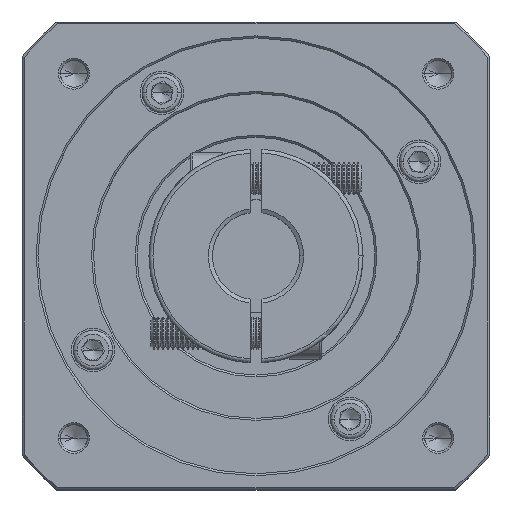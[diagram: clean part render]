
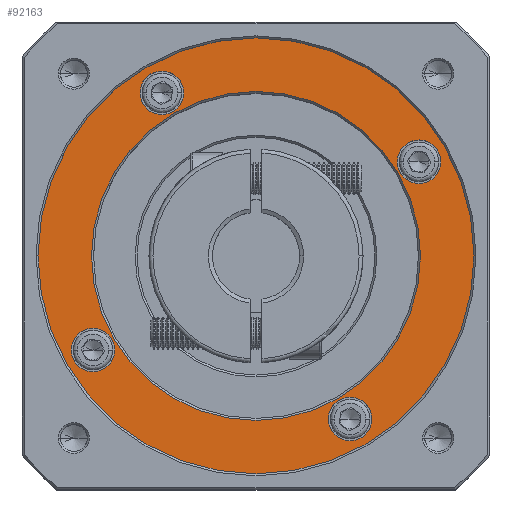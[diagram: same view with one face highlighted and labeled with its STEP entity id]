
A CAD part, top view. The second image highlights one B-rep face of the part: STEP entity #92163.
In plain terms, the highlighted planar face has unit normal (0, 0, 1).
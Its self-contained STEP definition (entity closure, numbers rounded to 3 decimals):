
#1731 = EDGE_CURVE ( 'NONE', #33004, #8407, #117924, .T. ) ;
#4808 = FACE_BOUND ( 'NONE', #76981, .T. ) ;
#5871 = CARTESIAN_POINT ( 'NONE',  ( 43.257, 123.385, 9.997 ) ) ;
#6039 = CIRCLE ( 'NONE', #54796, 5.5 ) ;
#6546 = VERTEX_POINT ( 'NONE', #58849 ) ;
#7833 = FACE_BOUND ( 'NONE', #93667, .T. ) ;
#8407 = VERTEX_POINT ( 'NONE', #52983 ) ;
#11062 = VERTEX_POINT ( 'NONE', #110245 ) ;
#11932 = DIRECTION ( 'NONE',  ( 0., 0., 1. ) ) ;
#12748 = CIRCLE ( 'NONE', #98497, 41.5 ) ;
#13034 = ORIENTED_EDGE ( 'NONE', *, *, #102230, .T. ) ;
#14832 = VERTEX_POINT ( 'NONE', #20530 ) ;
#14933 = CIRCLE ( 'NONE', #119286, 5.5 ) ;
#15342 = DIRECTION ( 'NONE',  ( 1., 0., 0. ) ) ;
#16915 = ORIENTED_EDGE ( 'NONE', *, *, #79094, .T. ) ;
#17341 = DIRECTION ( 'NONE',  ( 0., 0., -1. ) ) ;
#18833 = EDGE_CURVE ( 'NONE', #11062, #63821, #47626, .T. ) ;
#20530 = CARTESIAN_POINT ( 'NONE',  ( 43.257, 164.885, 9.997 ) ) ;
#20948 = PLANE ( 'NONE',  #74303 ) ;
#22181 = AXIS2_PLACEMENT_3D ( 'NONE', #32677, #98421, #42094 ) ;
#25407 = DIRECTION ( 'NONE',  ( 0., 0., 1. ) ) ;
#25604 = VERTEX_POINT ( 'NONE', #77345 ) ;
#28787 = CARTESIAN_POINT ( 'NONE',  ( 98.257, 123.385, 9.997 ) ) ;
#28865 = CIRCLE ( 'NONE', #103285, 5.5 ) ;
#29801 = FACE_BOUND ( 'NONE', #57832, .T. ) ;
#29838 = CARTESIAN_POINT ( 'NONE',  ( 2.121, 99.635, 9.997 ) ) ;
#30094 = CIRCLE ( 'NONE', #108843, 5.5 ) ;
#32677 = CARTESIAN_POINT ( 'NONE',  ( 19.507, 164.521, 9.997 ) ) ;
#33004 = VERTEX_POINT ( 'NONE', #28787 ) ;
#33617 = CARTESIAN_POINT ( 'NONE',  ( 84.393, 147.135, 9.997 ) ) ;
#35812 = CIRCLE ( 'NONE', #98552, 5.5 ) ;
#36344 = DIRECTION ( 'NONE',  ( 0., 0., -1. ) ) ;
#38327 = CARTESIAN_POINT ( 'NONE',  ( 78.893, 147.135, 9.997 ) ) ;
#39216 = EDGE_CURVE ( 'NONE', #63821, #11062, #83035, .T. ) ;
#39241 = DIRECTION ( 'NONE',  ( 1., 0., 0. ) ) ;
#40850 = ORIENTED_EDGE ( 'NONE', *, *, #1731, .T. ) ;
#41984 = ORIENTED_EDGE ( 'NONE', *, *, #61692, .T. ) ;
#42094 = DIRECTION ( 'NONE',  ( 1., 0., 0. ) ) ;
#43058 = DIRECTION ( 'NONE',  ( 1., 0., 0. ) ) ;
#46562 = AXIS2_PLACEMENT_3D ( 'NONE', #81575, #25407, #91037 ) ;
#46953 = CARTESIAN_POINT ( 'NONE',  ( 43.257, 123.385, 9.997 ) ) ;
#47626 = CIRCLE ( 'NONE', #22181, 5.5 ) ;
#48931 = EDGE_CURVE ( 'NONE', #118380, #105205, #6039, .T. ) ;
#49627 = DIRECTION ( 'NONE',  ( 0., 0., -1. ) ) ;
#52728 = AXIS2_PLACEMENT_3D ( 'NONE', #5871, #71435, #15342 ) ;
#52983 = CARTESIAN_POINT ( 'NONE',  ( -11.743, 123.385, 9.997 ) ) ;
#53382 = DIRECTION ( 'NONE',  ( 0., 0., -1. ) ) ;
#54729 = FACE_BOUND ( 'NONE', #60695, .T. ) ;
#54796 = AXIS2_PLACEMENT_3D ( 'NONE', #92592, #36344, #102107 ) ;
#55083 = CARTESIAN_POINT ( 'NONE',  ( 84.393, 147.135, 9.997 ) ) ;
#56081 = DIRECTION ( 'NONE',  ( 0., 0., -1. ) ) ;
#56365 = CIRCLE ( 'NONE', #112082, 41.5 ) ;
#56374 = DIRECTION ( 'NONE',  ( 0., -1., 0. ) ) ;
#57680 = FACE_OUTER_BOUND ( 'NONE', #86250, .T. ) ;
#57832 = EDGE_LOOP ( 'NONE', ( #110470, #93186 ) ) ;
#58849 = CARTESIAN_POINT ( 'NONE',  ( 7.621, 99.635, 9.997 ) ) ;
#60695 = EDGE_LOOP ( 'NONE', ( #103539, #113129 ) ) ;
#61692 = EDGE_CURVE ( 'NONE', #8407, #33004, #94631, .T. ) ;
#63821 = VERTEX_POINT ( 'NONE', #70850 ) ;
#64032 = EDGE_CURVE ( 'NONE', #6546, #25604, #104183, .T. ) ;
#64475 = DIRECTION ( 'NONE',  ( 1., 0., 0. ) ) ;
#66188 = CARTESIAN_POINT ( 'NONE',  ( 89.893, 147.135, 9.997 ) ) ;
#68023 = CARTESIAN_POINT ( 'NONE',  ( 43.257, 123.385, 9.997 ) ) ;
#68125 = EDGE_LOOP ( 'NONE', ( #13034, #75550 ) ) ;
#68399 = AXIS2_PLACEMENT_3D ( 'NONE', #109734, #53382, #119228 ) ;
#70850 = CARTESIAN_POINT ( 'NONE',  ( 25.007, 164.521, 9.997 ) ) ;
#71435 = DIRECTION ( 'NONE',  ( 0., 0., 1. ) ) ;
#73453 = CARTESIAN_POINT ( 'NONE',  ( 67.007, 82.249, 9.997 ) ) ;
#74139 = CARTESIAN_POINT ( 'NONE',  ( 61.507, 82.249, 9.997 ) ) ;
#74303 = AXIS2_PLACEMENT_3D ( 'NONE', #68023, #11932, #77491 ) ;
#74382 = VERTEX_POINT ( 'NONE', #38327 ) ;
#75550 = ORIENTED_EDGE ( 'NONE', *, *, #107972, .T. ) ;
#76981 = EDGE_LOOP ( 'NONE', ( #102096, #89385 ) ) ;
#77345 = CARTESIAN_POINT ( 'NONE',  ( -3.379, 99.635, 9.997 ) ) ;
#77491 = DIRECTION ( 'NONE',  ( 1., 0., 0. ) ) ;
#78320 = VERTEX_POINT ( 'NONE', #66188 ) ;
#79094 = EDGE_CURVE ( 'NONE', #74382, #78320, #28865, .T. ) ;
#79653 = FACE_BOUND ( 'NONE', #68125, .T. ) ;
#79680 = CARTESIAN_POINT ( 'NONE',  ( 72.507, 82.249, 9.997 ) ) ;
#81377 = AXIS2_PLACEMENT_3D ( 'NONE', #112464, #56081, #121966 ) ;
#81575 = CARTESIAN_POINT ( 'NONE',  ( 43.257, 123.385, 9.997 ) ) ;
#82939 = DIRECTION ( 'NONE',  ( 1., 0., 0. ) ) ;
#83035 = CIRCLE ( 'NONE', #68399, 5.5 ) ;
#85085 = EDGE_CURVE ( 'NONE', #105205, #118380, #35812, .T. ) ;
#85305 = EDGE_CURVE ( 'NONE', #25604, #6546, #30094, .T. ) ;
#86250 = EDGE_LOOP ( 'NONE', ( #40850, #41984 ) ) ;
#89385 = ORIENTED_EDGE ( 'NONE', *, *, #85305, .T. ) ;
#91037 = DIRECTION ( 'NONE',  ( 1., 0., 0. ) ) ;
#92163 = ADVANCED_FACE ( 'NONE', ( #57680, #79653, #7833, #54729, #29801, #4808 ), #20948, .T. ) ;
#92592 = CARTESIAN_POINT ( 'NONE',  ( 67.007, 82.249, 9.997 ) ) ;
#93186 = ORIENTED_EDGE ( 'NONE', *, *, #18833, .T. ) ;
#93615 = CARTESIAN_POINT ( 'NONE',  ( 43.257, 81.885, 9.997 ) ) ;
#93667 = EDGE_LOOP ( 'NONE', ( #95270, #16915 ) ) ;
#94631 = CIRCLE ( 'NONE', #46562, 55. ) ;
#95270 = ORIENTED_EDGE ( 'NONE', *, *, #97778, .T. ) ;
#95528 = DIRECTION ( 'NONE',  ( 0., 0., -1. ) ) ;
#97778 = EDGE_CURVE ( 'NONE', #78320, #74382, #14933, .T. ) ;
#98421 = DIRECTION ( 'NONE',  ( 0., 0., -1. ) ) ;
#98497 = AXIS2_PLACEMENT_3D ( 'NONE', #46953, #112752, #56374 ) ;
#98552 = AXIS2_PLACEMENT_3D ( 'NONE', #73453, #17341, #82939 ) ;
#99373 = DIRECTION ( 'NONE',  ( 0., 0., -1. ) ) ;
#102096 = ORIENTED_EDGE ( 'NONE', *, *, #64032, .T. ) ;
#102107 = DIRECTION ( 'NONE',  ( 1., 0., 0. ) ) ;
#102230 = EDGE_CURVE ( 'NONE', #114987, #14832, #12748, .T. ) ;
#103285 = AXIS2_PLACEMENT_3D ( 'NONE', #33617, #99373, #43058 ) ;
#103539 = ORIENTED_EDGE ( 'NONE', *, *, #85085, .T. ) ;
#104183 = CIRCLE ( 'NONE', #81377, 5.5 ) ;
#105205 = VERTEX_POINT ( 'NONE', #79680 ) ;
#105984 = CARTESIAN_POINT ( 'NONE',  ( 43.257, 123.385, 9.997 ) ) ;
#107972 = EDGE_CURVE ( 'NONE', #14832, #114987, #56365, .T. ) ;
#108843 = AXIS2_PLACEMENT_3D ( 'NONE', #29838, #95528, #39241 ) ;
#109734 = CARTESIAN_POINT ( 'NONE',  ( 19.507, 164.521, 9.997 ) ) ;
#110245 = CARTESIAN_POINT ( 'NONE',  ( 14.007, 164.521, 9.997 ) ) ;
#110470 = ORIENTED_EDGE ( 'NONE', *, *, #39216, .T. ) ;
#112082 = AXIS2_PLACEMENT_3D ( 'NONE', #105984, #49627, #115433 ) ;
#112464 = CARTESIAN_POINT ( 'NONE',  ( 2.121, 99.635, 9.997 ) ) ;
#112752 = DIRECTION ( 'NONE',  ( 0., 0., -1. ) ) ;
#113129 = ORIENTED_EDGE ( 'NONE', *, *, #48931, .T. ) ;
#114987 = VERTEX_POINT ( 'NONE', #93615 ) ;
#115433 = DIRECTION ( 'NONE',  ( 0., -1., 0. ) ) ;
#117924 = CIRCLE ( 'NONE', #52728, 55. ) ;
#118380 = VERTEX_POINT ( 'NONE', #74139 ) ;
#119228 = DIRECTION ( 'NONE',  ( 1., 0., 0. ) ) ;
#119286 = AXIS2_PLACEMENT_3D ( 'NONE', #55083, #120936, #64475 ) ;
#120936 = DIRECTION ( 'NONE',  ( 0., 0., -1. ) ) ;
#121966 = DIRECTION ( 'NONE',  ( 1., 0., 0. ) ) ;
